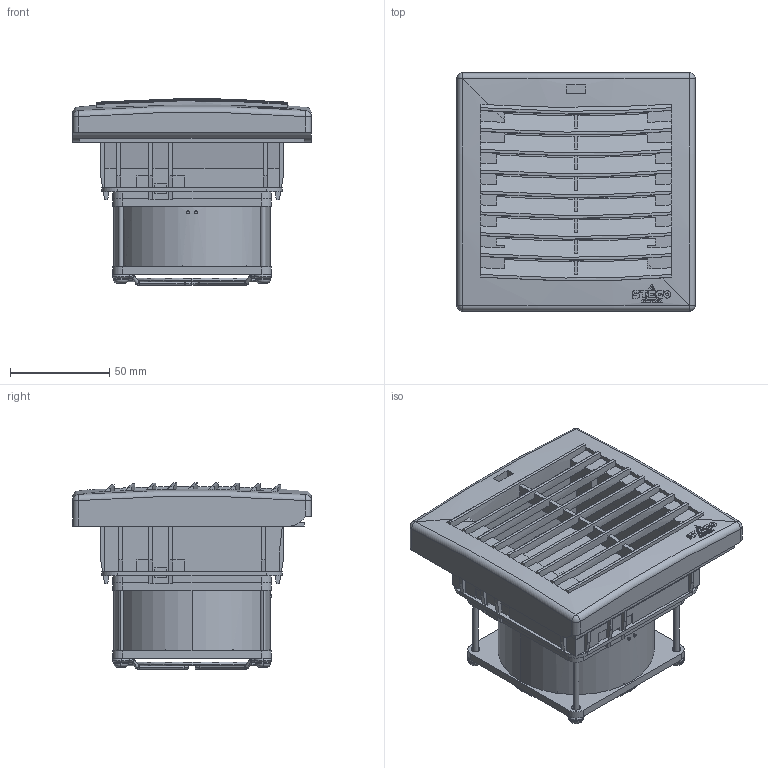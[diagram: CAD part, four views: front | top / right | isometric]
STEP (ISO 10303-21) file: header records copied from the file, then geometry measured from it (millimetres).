
FILE_DESCRIPTION (( 'STEP AP214' ), '1' );
FILE_NAME ('FPO_018_AC_92x92_EPLAN_10_2015.STEP', '2015-10-16T09:33:47', ( 'Admin' ), ( 'Hewlett-Packard Company' ), 'SwSTEP 2.0', 'SolidWorks 2015', '' );
FILE_SCHEMA (( 'AUTOMOTIVE_DESIGN' ));
Length unit declared in the file: millimetre
Products named in the file (1): FPO_018_AC_92x92_EPLAN_10_2015
Bounding box: 120 x 120 x 94.04 mm (x, y, z)
Surface area: 125512.8 mm2 (no closed solid volume)
Topology: 0 solids, 24 shells, 763 faces, 2678 edges, 1863 vertices
Faces by surface type: plane 357, cylinder 204, torus 94, sphere 59, bspline 41, cone 8
Entity records: 40918 total; most frequent: CARTESIAN_POINT 10003, ORIENTED_EDGE 4627, DIRECTION 4567, EDGE_CURVE 2673, VERTEX_POINT 1863, AXIS2_PLACEMENT_3D 1662, LINE 1243, VECTOR 1243
